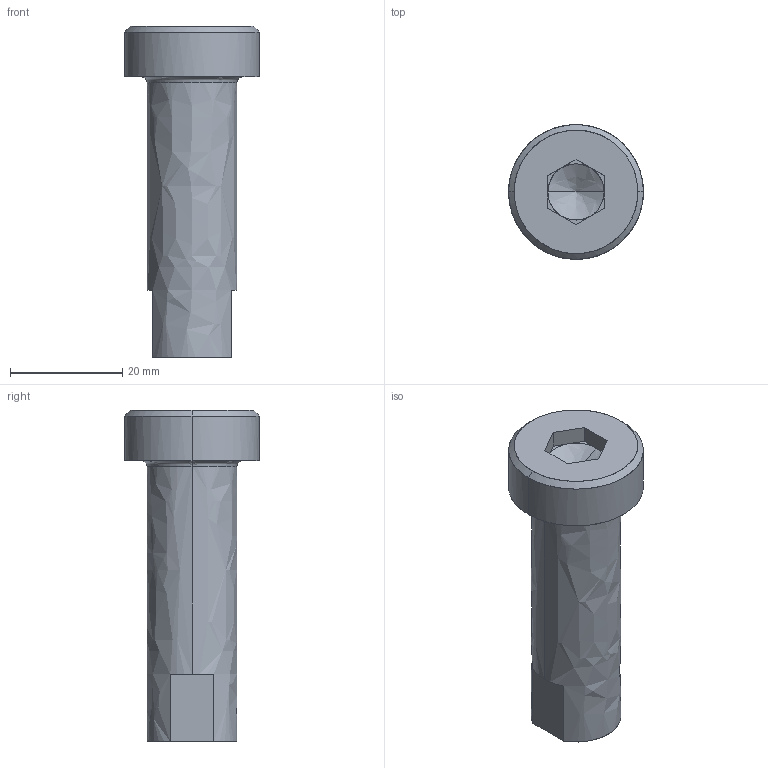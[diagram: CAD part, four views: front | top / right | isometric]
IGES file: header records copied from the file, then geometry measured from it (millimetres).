
Global section: file name: E:\UnigraphicsGraphicData\MISUMI_PRESS-PARTS\IGES\3d_sbtln16-50_05177_r00.igs; native system: NX V5.0; preprocessor: UGS NX IGES V5.0; author: MISUMI; date: 20110105.162505; units: millimetre
Bounding box: 24 x 24 x 59 mm (x, y, z)
Surface area: 4742 mm2 (no closed solid volume)
Topology: 0 solids, 0 shells, 36 faces, 202 edges, 198 vertices
Faces by surface type: bspline 36
